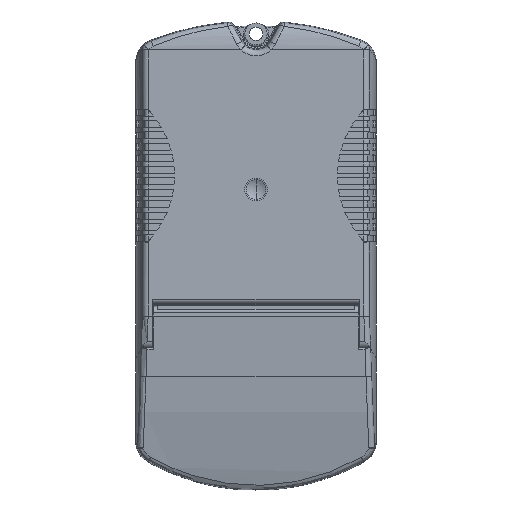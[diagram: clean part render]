
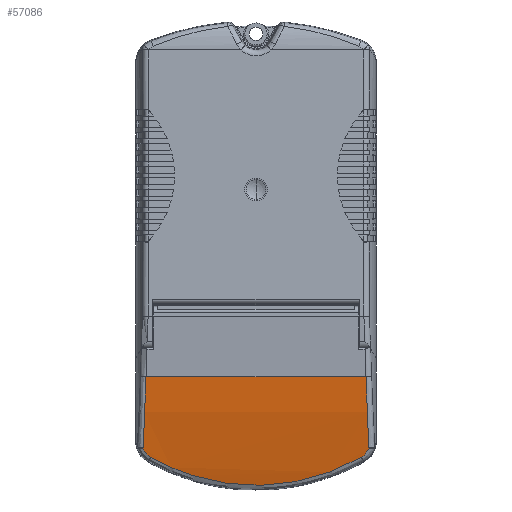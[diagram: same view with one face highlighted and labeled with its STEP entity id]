
A CAD part, top view. The second image highlights one B-rep face of the part: STEP entity #57086.
In plain terms, the highlighted cylindrical face has radius 200 mm (diameter 400 mm), a partial arc.
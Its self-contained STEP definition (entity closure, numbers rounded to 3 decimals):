
#8368=DIRECTION('',(-1.,0.,0.));
#8369=VECTOR('',#8368,74.946);
#8370=CARTESIAN_POINT('',(52.823,31.095,25.566));
#8371=LINE('',#8370,#8369);
#15043=CARTESIAN_POINT('',(-23.088,6.83,
21.932));
#15050=CARTESIAN_POINT('',(-23.088,6.83,
21.932));
#15051=CARTESIAN_POINT('',(-22.985,9.505,
22.503));
#15052=CARTESIAN_POINT('',(-22.755,14.873,
23.533));
#15053=CARTESIAN_POINT('',(-22.404,23.008,
24.749));
#15054=CARTESIAN_POINT('',(-22.207,28.402,
25.33));
#15055=CARTESIAN_POINT('',(-22.123,31.095,
25.566));
#15057=CARTESIAN_POINT('',(52.823,31.095,25.566));
#15058=CARTESIAN_POINT('',(52.906,28.402,25.33));
#15059=CARTESIAN_POINT('',(53.104,23.008,24.749));
#15060=CARTESIAN_POINT('',(53.455,14.873,23.533));
#15061=CARTESIAN_POINT('',(53.684,9.505,22.503));
#15062=CARTESIAN_POINT('',(53.788,6.83,21.932));
#15064=CARTESIAN_POINT('',(53.788,6.83,21.932));
#15065=CARTESIAN_POINT('',(53.712,6.603,21.884));
#15066=CARTESIAN_POINT('',(53.509,6.099,21.776));
#15067=CARTESIAN_POINT('',(53.086,5.366,21.615));
#15068=CARTESIAN_POINT('',(52.517,4.661,21.458));
#15069=CARTESIAN_POINT('',(51.877,4.082,21.327));
#15070=CARTESIAN_POINT('',(51.41,3.77,21.255));
#15071=CARTESIAN_POINT('',(51.185,3.64,21.225));
#15073=CARTESIAN_POINT('',(51.185,3.64,21.225));
#15074=CARTESIAN_POINT('',(49.228,2.516,20.966));
#15075=CARTESIAN_POINT('',(45.171,0.432,
20.466));
#15076=CARTESIAN_POINT('',(38.805,-2.11,
19.816));
#15077=CARTESIAN_POINT('',(32.21,-4.038,
19.298));
#15078=CARTESIAN_POINT('',(25.501,-5.322,
18.943));
#15079=CARTESIAN_POINT('',(18.735,-5.962,
18.762));
#15080=CARTESIAN_POINT('',(11.952,-5.961,
18.762));
#15081=CARTESIAN_POINT('',(5.186,-5.32,
18.943));
#15082=CARTESIAN_POINT('',(-1.523,-4.035,
19.299));
#15083=CARTESIAN_POINT('',(-8.118,-2.106,
19.817));
#15084=CARTESIAN_POINT('',(-14.479,0.436,
20.467));
#15085=CARTESIAN_POINT('',(-18.532,2.519,
20.967));
#15086=CARTESIAN_POINT('',(-20.486,3.64,
21.225));
#15088=CARTESIAN_POINT('',(-20.486,3.64,
21.225));
#15089=CARTESIAN_POINT('',(-20.713,3.771,
21.255));
#15090=CARTESIAN_POINT('',(-21.182,4.085,
21.327));
#15091=CARTESIAN_POINT('',(-21.824,4.668,
21.459));
#15092=CARTESIAN_POINT('',(-22.392,5.374,
21.617));
#15093=CARTESIAN_POINT('',(-22.812,6.105,
21.777));
#15094=CARTESIAN_POINT('',(-23.013,6.606,
21.885));
#15095=CARTESIAN_POINT('',(-23.088,6.83,
21.932));
#15114=CARTESIAN_POINT('',(51.185,3.64,21.225));
#15142=CARTESIAN_POINT('',(-20.486,3.64,
21.225));
#35800=VERTEX_POINT('',#15043);
#35801=CARTESIAN_POINT('',(-22.123,31.095,
25.566));
#35802=VERTEX_POINT('',#35801);
#36473=VERTEX_POINT('',#15114);
#36474=VERTEX_POINT('',#15064);
#36475=VERTEX_POINT('',#15142);
#36476=CARTESIAN_POINT('',(52.823,31.095,25.566));
#36477=VERTEX_POINT('',#36476);
#57070=CARTESIAN_POINT('',(-25.65,48.526,
-173.673));
#57071=DIRECTION('',(1.,0.,0.));
#57072=DIRECTION('',(0.,1.,0.));
#57073=AXIS2_PLACEMENT_3D('',#57070,#57071,#57072);
#57074=CYLINDRICAL_SURFACE('',#57073,200.);
#57075=ORIENTED_EDGE('',*,*,#57064,.T.);
#57076=ORIENTED_EDGE('',*,*,#48437,.F.);
#57077=ORIENTED_EDGE('',*,*,#48522,.T.);
#57079=ORIENTED_EDGE('',*,*,#57078,.T.);
#57081=ORIENTED_EDGE('',*,*,#57080,.T.);
#57083=ORIENTED_EDGE('',*,*,#57082,.T.);
#57084=EDGE_LOOP('',(#57075,#57076,#57077,#57079,#57081,#57083));
#57085=FACE_OUTER_BOUND('',#57084,.F.);
#57086=ADVANCED_FACE('',(#57085),#57074,.T.);
#15056=B_SPLINE_CURVE_WITH_KNOTS('',3,(#15050,#15051,#15052,#15053,#15054,
#15055),.UNSPECIFIED.,.F.,.F.,(4,1,1,4),(0.,0.333,
0.667,1.),.UNSPECIFIED.);
#15063=B_SPLINE_CURVE_WITH_KNOTS('',3,(#15057,#15058,#15059,#15060,#15061,
#15062),.UNSPECIFIED.,.F.,.F.,(4,1,1,4),(0.,0.333,
0.667,1.),.UNSPECIFIED.);
#15072=B_SPLINE_CURVE_WITH_KNOTS('',3,(#15064,#15065,#15066,#15067,#15068,
#15069,#15070,#15071),.UNSPECIFIED.,.F.,.F.,(4,1,1,1,1,4),(0.,
0.171,0.387,0.602,0.816,1.),
.UNSPECIFIED.);
#15087=B_SPLINE_CURVE_WITH_KNOTS('',3,(#15073,#15074,#15075,#15076,#15077,
#15078,#15079,#15080,#15081,#15082,#15083,#15084,#15085,#15086),.UNSPECIFIED.,
.F.,.F.,(4,1,1,1,1,1,1,1,1,1,1,4),(0.,0.09,0.183,
0.274,0.365,0.455,0.545,
0.635,0.726,0.818,0.91,1.),
.UNSPECIFIED.);
#15096=B_SPLINE_CURVE_WITH_KNOTS('',3,(#15088,#15089,#15090,#15091,#15092,
#15093,#15094,#15095),.UNSPECIFIED.,.F.,.F.,(4,1,1,1,1,4),(0.,
0.187,0.4,0.615,0.831,1.),
.UNSPECIFIED.);
#48437=EDGE_CURVE('',#36477,#35802,#8371,.T.);
#48522=EDGE_CURVE('',#36477,#36474,#15063,.T.);
#57064=EDGE_CURVE('',#35800,#35802,#15056,.T.);
#57078=EDGE_CURVE('',#36474,#36473,#15072,.T.);
#57080=EDGE_CURVE('',#36473,#36475,#15087,.T.);
#57082=EDGE_CURVE('',#36475,#35800,#15096,.T.);
